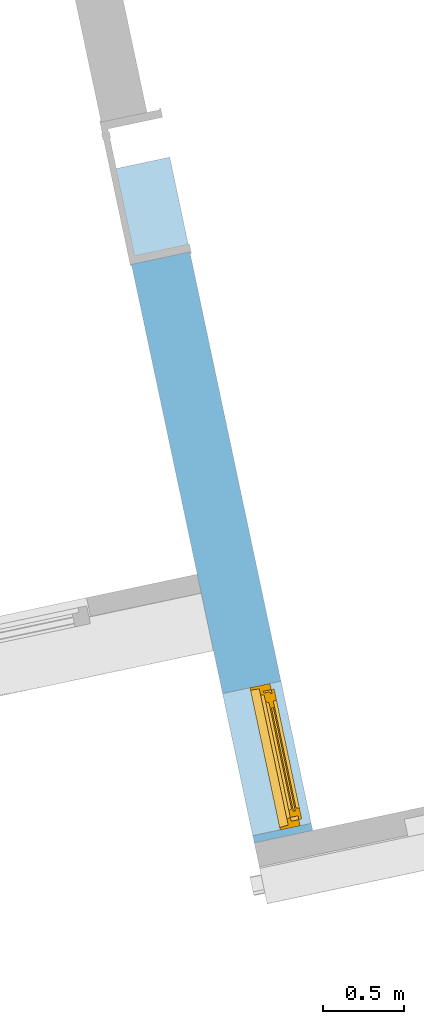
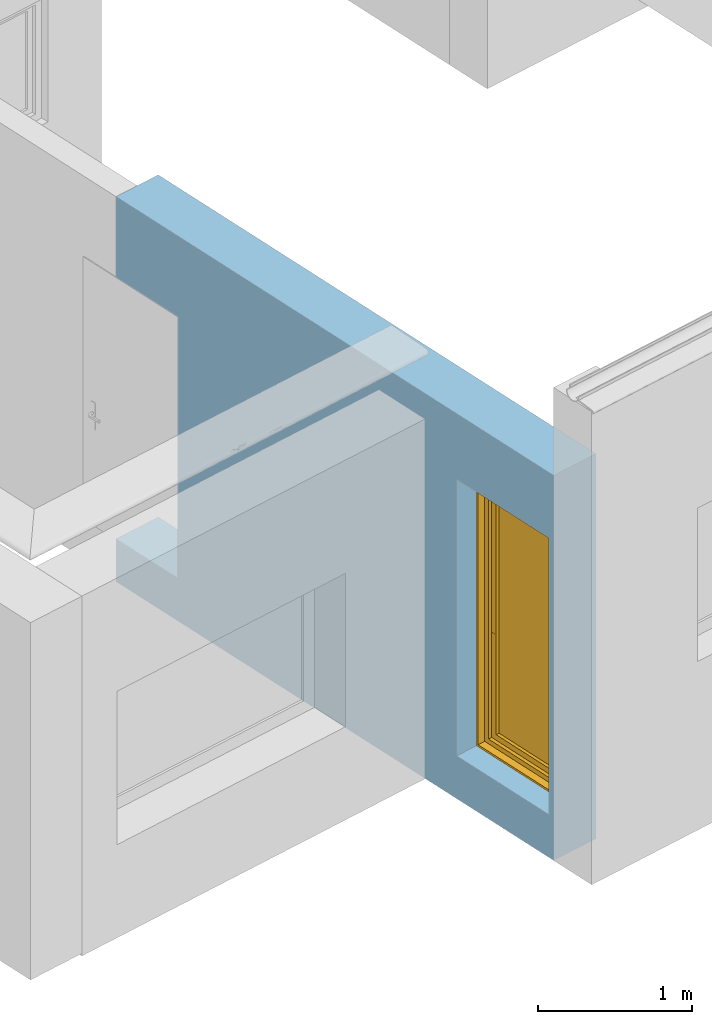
"""IFC2X3 building model written with IfcOpenShell, lengths in centimetres."""

from ifc_helpers import new_model, entity, si_unit, converted_unit, derived_unit, direction, frame, frame_2d, origin, place, context, subcontext, project, spatial, rectangle, extrude, faceted_brep, source, transform, mapped, material, material_list, layer, layer_set, layer_usage, type_object, type_shapes, element, fill, save


model = new_model("IFC2X3")

# Units and contexts
model_context = context("Model", 3, precision=0.001, world=origin(), true_north=direction((6.12303176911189e-17, 1.0)))
body_context = subcontext(model_context, "Body", "Model", "MODEL_VIEW")
ifc_project = project(units=[si_unit("LENGTHUNIT", "METRE", prefix="CENTI"), si_unit("AREAUNIT", "SQUARE_METRE"), si_unit("VOLUMEUNIT", "CUBIC_METRE"), converted_unit("PLANEANGLEUNIT", "DEGREE", entity("IfcRatioMeasure", 0.0174532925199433), si_unit("PLANEANGLEUNIT", "RADIAN"), dimensions=[0, 0, 0, 0, 0, 0, 0]), si_unit("MASSUNIT", "GRAM", prefix="KILO"), derived_unit("MASSDENSITYUNIT", [(si_unit("MASSUNIT", "GRAM", prefix="KILO"), 1), (si_unit("LENGTHUNIT", "METRE"), -3)]), derived_unit("IONCONCENTRATIONUNIT", [(si_unit("MASSUNIT", "GRAM", prefix="KILO"), 1), (si_unit("LENGTHUNIT", "METRE"), -3)]), derived_unit("MOMENTOFINERTIAUNIT", [(si_unit("LENGTHUNIT", "METRE"), 4)]), si_unit("TIMEUNIT", "SECOND"), si_unit("FREQUENCYUNIT", "HERTZ"), si_unit("THERMODYNAMICTEMPERATUREUNIT", "DEGREE_CELSIUS"), derived_unit("THERMALTRANSMITTANCEUNIT", [(si_unit("MASSUNIT", "GRAM", prefix="KILO"), 1), (si_unit("THERMODYNAMICTEMPERATUREUNIT", "KELVIN"), -1), (si_unit("TIMEUNIT", "SECOND"), -3)]), derived_unit("THERMALCONDUCTANCEUNIT", [(si_unit("MASSUNIT", "GRAM", prefix="KILO"), 1), (si_unit("THERMODYNAMICTEMPERATUREUNIT", "KELVIN"), -1), (si_unit("TIMEUNIT", "SECOND"), -3), (si_unit("LENGTHUNIT", "METRE"), 1)]), derived_unit("VOLUMETRICFLOWRATEUNIT", [(si_unit("LENGTHUNIT", "METRE"), 3), (si_unit("TIMEUNIT", "SECOND"), -1)]), derived_unit("MASSFLOWRATEUNIT", [(si_unit("MASSUNIT", "GRAM", prefix="KILO"), 1), (si_unit("TIMEUNIT", "SECOND"), -1)]), derived_unit("ROTATIONALFREQUENCYUNIT", [(si_unit("TIMEUNIT", "SECOND"), -1)]), si_unit("ELECTRICCURRENTUNIT", "AMPERE"), si_unit("ELECTRICVOLTAGEUNIT", "VOLT"), si_unit("POWERUNIT", "WATT"), si_unit("FORCEUNIT", "NEWTON", prefix="KILO"), si_unit("ILLUMINANCEUNIT", "LUX"), si_unit("LUMINOUSFLUXUNIT", "LUMEN"), si_unit("LUMINOUSINTENSITYUNIT", "CANDELA"), derived_unit("USERDEFINED", [(si_unit("MASSUNIT", "GRAM", prefix="KILO"), -1), (si_unit("LENGTHUNIT", "METRE"), -2), (si_unit("TIMEUNIT", "SECOND"), 3), (si_unit("LUMINOUSFLUXUNIT", "LUMEN"), 1)]), derived_unit("USERDEFINED", [(si_unit("MASSUNIT", "GRAM", prefix="KILO"), 1), (si_unit("TIMEUNIT", "SECOND"), -3), (si_unit("LENGTHUNIT", "METRE"), 3), (si_unit("ELECTRICCURRENTUNIT", "AMPERE"), -2)]), derived_unit("SOUNDPOWERUNIT", [(si_unit("MASSUNIT", "GRAM", prefix="KILO"), 1), (si_unit("TIMEUNIT", "SECOND"), -3), (si_unit("LENGTHUNIT", "METRE"), 2)]), derived_unit("SOUNDPRESSUREUNIT", [(si_unit("MASSUNIT", "GRAM", prefix="KILO"), 1), (si_unit("LENGTHUNIT", "METRE"), -1), (si_unit("TIMEUNIT", "SECOND"), -2)]), derived_unit("LINEARVELOCITYUNIT", [(si_unit("LENGTHUNIT", "METRE"), 1), (si_unit("TIMEUNIT", "SECOND"), -1)]), si_unit("PRESSUREUNIT", "PASCAL"), derived_unit("USERDEFINED", [(si_unit("MASSUNIT", "GRAM", prefix="KILO"), 1), (si_unit("LENGTHUNIT", "METRE"), -2), (si_unit("TIMEUNIT", "SECOND"), -2)]), derived_unit("LINEARFORCEUNIT", [(si_unit("MASSUNIT", "GRAM", prefix="KILO"), 1), (si_unit("TIMEUNIT", "SECOND"), -2)]), derived_unit("PLANARFORCEUNIT", [(si_unit("MASSUNIT", "GRAM", prefix="KILO"), 1), (si_unit("LENGTHUNIT", "METRE"), -1), (si_unit("TIMEUNIT", "SECOND"), -2)]), derived_unit("SPECIFICHEATCAPACITYUNIT", [(si_unit("THERMODYNAMICTEMPERATUREUNIT", "KELVIN"), -1), (si_unit("LENGTHUNIT", "METRE"), 2), (si_unit("TIMEUNIT", "SECOND"), -2)]), derived_unit("HEATINGVALUEUNIT", [(si_unit("LENGTHUNIT", "METRE"), 2), (si_unit("TIMEUNIT", "SECOND"), -2)]), derived_unit("VAPORPERMEABILITYUNIT", [(si_unit("LENGTHUNIT", "METRE"), -1), (si_unit("TIMEUNIT", "SECOND"), 1)]), derived_unit("DYNAMICVISCOSITYUNIT", [(si_unit("MASSUNIT", "GRAM", prefix="KILO"), 1), (si_unit("TIMEUNIT", "SECOND"), -1), (si_unit("LENGTHUNIT", "METRE"), -1)]), derived_unit("THERMALEXPANSIONCOEFFICIENTUNIT", [(si_unit("THERMODYNAMICTEMPERATUREUNIT", "KELVIN"), -1)]), derived_unit("MODULUSOFELASTICITYUNIT", [(si_unit("MASSUNIT", "GRAM", prefix="KILO"), 1), (si_unit("LENGTHUNIT", "METRE"), -1), (si_unit("TIMEUNIT", "SECOND"), -2)]), derived_unit("ISOTHERMALMOISTURECAPACITYUNIT", [(si_unit("LENGTHUNIT", "METRE"), 3), (si_unit("MASSUNIT", "GRAM", prefix="KILO"), -1)]), derived_unit("MOISTUREDIFFUSIVITYUNIT", [(si_unit("TIMEUNIT", "SECOND"), -1), (si_unit("LENGTHUNIT", "METRE"), 2)])], contexts=[model_context])

# Site, building, storey
site_placement = place(None, frame((14083.8920177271, -6853.25409548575, 6900.0), z_axis=(0.0, 0.0, 1.0), x_axis=(0.978188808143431, 0.207717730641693, 0.0)))
site = spatial("IfcSite", under=ifc_project, at=site_placement, Name="Surface", CompositionType="ELEMENT")
building_placement = place(site_placement, origin())
building = spatial("IfcBuilding", under=site, at=building_placement, CompositionType="ELEMENT")
storey_1_placement = place(building_placement, frame((0.0, 0.0, -17.0)))
storey_1 = spatial("IfcBuildingStorey", under=building, at=storey_1_placement, Name="Rez de chaussée (SD)", CompositionType="ELEMENT", Elevation=-16.9999999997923)

# Wall, openings
ifc_material_1 = material(Name="__ ENDUIT_Blanc")
ifc_layer_1 = layer(ifc_material_1, 2.0)
ifc_material_2 = material(Name="__ BETON_parpaings")
ifc_layer_2 = layer(ifc_material_2, 20.0)
ifc_material_3 = material(Name="__ ISOLANT (pat 1)")
ifc_layer_3 = layer(ifc_material_3, 13.0)
ifc_layer_4 = layer(ifc_material_1, 2.0)
ifc_layer_set = layer_set([ifc_layer_1, ifc_layer_2, ifc_layer_3, ifc_layer_4], Name="Mur de base:*BRIQUE 37 (20 +INT 13+2 + EXT 2) (Iso+BA13)(enduit)")
ifc_layer_usage = layer_usage(ifc_layer_set, "AXIS2", "NEGATIVE", 18.5)
wall_type = type_object("IfcWallType", Name="Mur de base:*BRIQUE 37 (20 +INT 13+2 + EXT 2) (Iso+BA13)(enduit)", PredefinedType="STANDARD", material=ifc_layer_set)
wall_placement = place(storey_1_placement, frame((-7718.4551432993, 14712.6724778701, 0.0), z_axis=(0.0, 0.0, 1.0), x_axis=(0.0, 1.0, 0.0)))
wall = element("IfcWallStandardCase", 1, at=wall_placement, inside=storey_1, type_object=wall_type, material=ifc_layer_usage, Name="Mur de base:*BRIQUE 37 (20 +INT 13+2 + EXT 2) (Iso+BA13)(enduit)", ObjectType="Mur de base:*BRIQUE 37 (20 +INT 13+2 + EXT 2) (Iso+BA13)(enduit)", context=body_context, shape_type="SweptSolid", body=[
    extrude(rectangle(XDim=425.999999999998, YDim=37.0000000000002, at=frame_2d((212.999999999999, -3.5527136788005e-14), x_axis=(-1.0, 0.0))), origin(), (0.0, 0.0, 1.0), 305.999999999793),
])
opening_1_placement = place(wall_placement, origin())
element("IfcOpeningElement", 2, at=opening_1_placement, cuts=wall, Name="Mur de base:*BRIQUE 37 (20 +INT 13+2 + EXT 2) (Iso+BA13)(enduit)", ObjectType="Opening", context=body_context, shape_type="SweptSolid", body=[
    extrude(rectangle(XDim=207.5, YDim=7.00000000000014, at=frame_2d((-8.66418048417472e-13, 0.0), x_axis=(0.0, 1.0))), frame((362.49486685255, -123.499999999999, 137.750000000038), z_axis=(0.0, 1.0, 0.0), x_axis=(1.0, 0.0, 0.0)), (0.0, 0.0, 1.0), 90.0000000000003),
])
opening_2_placement = place(wall_placement, frame((4.45997477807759, 21.0, 28.3850445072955), z_axis=(0.0, 0.0, 1.0), x_axis=(0.0, -1.0, 0.0)))
opening_2 = element("IfcOpeningElement", 3, at=opening_2_placement, cuts=wall, Name="Mur de base:*BRIQUE 37 (20 +INT 13+2 + EXT 2) (Iso+BA13)(enduit)", ObjectType="Opening", context=body_context, shape_type="Brep", body=[
    faceted_brep([(39.5000000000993, 90.0, 225.614955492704), (39.5000000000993, 0.0, 225.614955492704), (39.5000000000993, 0.0, 5.61495549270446), (39.5000000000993, 90.0, 5.61495549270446), (2.50000000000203, 90.0, 225.614955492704), (2.50000000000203, 90.0, 5.61495549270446), (2.50000000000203, 0.0999999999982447, 5.61495549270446), (2.50000000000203, 0.0, 5.61495549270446), (2.50000000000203, 0.0, 225.614955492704), (34.2000000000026, 90.0, 225.614955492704), (34.2000000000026, 90.0, 225.714955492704), (34.3000000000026, 90.0, 225.714955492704), (34.3000000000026, 90.0, 225.614955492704), (33.0, 0.0, 5.61495549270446), (33.0, 0.0999999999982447, 5.61495549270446), (34.3000000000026, 0.0, 225.614955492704), (34.3000000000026, 0.0, 225.714955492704), (34.2000000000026, 0.0, 225.714955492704), (34.2000000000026, 0.0, 225.614955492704), (14.3000000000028, 0.0, 225.614955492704), (14.3000000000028, 0.0, 225.714955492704), (14.2000000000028, 0.0, 225.714955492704), (14.2000000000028, 0.0, 225.614955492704), (0.0, 0.0, 5.61495549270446), (0.0, 0.0, 0.0), (30.5025116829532, 0.0, 2.11559678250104), (33.0, 0.0, 2.11559678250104), (30.5025116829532, 0.0999999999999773, 2.11559678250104), (0.0, 0.0999999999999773, 0.0), (0.0, 0.0999999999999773, 5.61495549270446), (33.0, 0.0999999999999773, 2.11559678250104), (14.3000000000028, 0.0999999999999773, 225.714955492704), (14.3000000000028, 0.0999999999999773, 225.614955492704), (14.2000000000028, 0.0999999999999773, 225.614955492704), (14.2000000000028, 0.0999999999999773, 225.714955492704)], [[[0, 1, 2, 3]], [[4, 5, 6, 7, 8]], [[0, 3, 5, 4, 9, 10, 11, 12]], [[3, 2, 13, 14, 6, 5]], [[2, 1, 15, 16, 17, 18, 19, 20, 21, 22, 8, 7, 23, 24, 25, 26, 13]], [[1, 0, 12, 15]], [[27, 28, 29, 6, 14, 30]], [[27, 30, 26, 25]], [[30, 14, 13, 26]], [[29, 23, 7, 6]], [[29, 28, 24, 23]], [[28, 27, 25, 24]], [[31, 32, 33, 34]], [[31, 34, 21, 20]], [[34, 33, 22, 21]], [[32, 31, 20, 19]], [[12, 11, 16, 15]], [[11, 10, 17, 16]], [[10, 9, 18, 17]], [[4, 8, 22, 33, 32, 19, 18, 9]]]),
])
opening_3_placement = place(wall_placement, frame((365.994866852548, -18.5000000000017, 34.0)))
element("IfcOpeningElement", 4, at=opening_3_placement, cuts=wall, Name="*Porte_alveolaire:Pp 83 x 204:1", ObjectType="Opening", context=body_context, shape_type="SweptSolid", body=[
    extrude(rectangle(XDim=207.5, YDim=89.9999999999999, at=frame_2d((103.75, 45.0), x_axis=(1.0, 0.0))), frame((0.0, 0.0, 0.0), z_axis=(0.0, 1.0, 0.0), x_axis=(0.0, 0.0, 1.0)), (0.0, 0.0, 1.0), 37.0),
])

# Storey
storey_2_placement = place(building_placement, frame((0.0, 0.0, 17.0)))
storey_2 = spatial("IfcBuildingStorey", under=building, at=storey_2_placement, Name="Rez de chaussée", CompositionType="ELEMENT", Elevation=17.0000000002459)

# Window
ifc_material_4 = material(Name="<Unnamed>")
ifc_material_5 = material(Name="Fenêtre - Vitrage")
ifc_material_6 = material(Name="Fenêtre - Cadre")
ifc_material_list = material_list([ifc_material_4, ifc_material_5, ifc_material_6])
window_style = type_object("IfcWindowStyle", Name="*PVC 1 VANTAIL:PF 90*220", ConstructionType="NOTDEFINED", OperationType="NOTDEFINED", ParameterTakesPrecedence=False, Sizeable=False, material=ifc_material_list)
shared_shape = source(origin(), body_context, "Body", "Brep", [
    faceted_brep([(160.0, 8.0, 93.6149554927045), (160.0, 10.0, 93.6149554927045), (150.0, 10.0, 93.6149554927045), (150.0, 8.0, 93.6149554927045), (160.0, 8.0, 91.6149554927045), (150.0, 8.0, 91.6149554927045), (150.0, 10.0, 91.6149554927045), (160.0, 10.0, 91.6149554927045)], [[[0, 1, 2, 3]], [[4, 5, 6, 7]], [[3, 5, 4, 0]], [[2, 6, 5, 3]], [[1, 7, 6, 2]], [[0, 4, 7, 1]]]),
    faceted_brep([(160.0, 10.0, 95.6149554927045), (160.0, 12.0, 95.6149554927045), (155.0, 12.0, 95.6149554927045), (155.0, 10.0, 95.6149554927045), (160.0, 10.0, 90.6149554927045), (155.0, 10.0, 90.6149554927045), (155.0, 12.0, 90.6149554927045), (160.0, 12.0, 90.6149554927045)], [[[0, 1, 2, 3]], [[4, 5, 6, 7]], [[3, 5, 4, 0]], [[2, 6, 5, 3]], [[1, 7, 6, 2]], [[0, 4, 7, 1]]]),
    faceted_brep([(155.416484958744, 7.25296298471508, 216.031440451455), (155.416484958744, 8.03717831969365, 216.031440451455), (84.5835150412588, 8.03717831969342, 216.031440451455), (84.5835150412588, 7.25296298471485, 216.031440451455), (155.416484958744, 7.25296298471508, 15.198470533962), (84.5835150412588, 7.25296298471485, 15.198470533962), (84.5835150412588, 8.03717831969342, 15.198470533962), (155.416484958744, 8.03717831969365, 15.198470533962)], [[[0, 1, 2, 3]], [[4, 5, 6, 7]], [[3, 5, 4, 0]], [[2, 6, 5, 3]], [[1, 7, 6, 2]], [[0, 4, 7, 1]]]),
    faceted_brep([(84.5835150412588, 9.23973889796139, 216.031440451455), (84.5835150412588, 9.23973889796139, 15.198470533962), (155.416484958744, 9.23973889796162, 15.198470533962), (155.416484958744, 9.23973889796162, 216.031440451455), (84.5835150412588, 10.0397388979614, 216.031440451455), (84.5835150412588, 10.0397388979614, 15.198470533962), (155.416484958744, 10.0397388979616, 216.031440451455), (155.416484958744, 10.0397388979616, 15.198470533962)], [[[0, 1, 2, 3]], [[4, 5, 1, 0]], [[6, 7, 5, 4]], [[3, 2, 7, 6]], [[2, 1, 5, 7]], [[3, 6, 4, 0]]]),
    faceted_brep([(84.5835150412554, 7.25296298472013, 216.031440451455), (84.5835150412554, 7.25296298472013, 15.1984705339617), (84.5835150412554, 10.0397388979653, 15.1984705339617), (84.5835150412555, 10.0397388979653, 216.031440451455), (85.5691641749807, 5.15897052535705, 215.04579131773), (85.5691641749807, 5.15897052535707, 16.184119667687), (86.3313151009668, 7.25296298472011, 16.9462705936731), (86.3313151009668, 7.25296298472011, 214.283640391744), (78.8763363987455, 7.00296298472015, 221.738619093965), (78.8763363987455, 7.00296298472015, 9.49129189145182), (78.8763363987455, 5.15897052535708, 9.49129189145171), (78.8763363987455, 5.15897052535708, 221.738619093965), (81.2863363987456, 11.9191241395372, 219.328619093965), (81.2863363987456, 11.9191241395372, 11.9012918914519), (81.2863363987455, 7.00296298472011, 11.9012918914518), (81.2863363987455, 7.00296298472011, 219.328619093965), (86.3540380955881, 10.0397388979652, 214.260917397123), (86.3540380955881, 10.0397388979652, 16.9689935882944), (85.6699978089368, 11.9191241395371, 16.284953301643), (85.6699978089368, 11.9191241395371, 214.944957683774), (155.416484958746, 7.25296298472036, 15.1984705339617), (155.416484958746, 10.0397388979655, 15.1984705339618), (154.430835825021, 5.15897052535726, 16.184119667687), (153.668684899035, 7.25296298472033, 16.9462705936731), (161.123663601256, 7.00296298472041, 9.49129189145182), (161.123663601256, 5.15897052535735, 9.49129189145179), (158.713663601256, 11.9191241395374, 11.9012918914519), (158.713663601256, 7.00296298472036, 11.9012918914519), (153.645961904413, 10.0397388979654, 16.9689935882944), (154.330002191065, 11.9191241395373, 16.2849533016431), (155.416484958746, 7.25296298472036, 216.031440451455), (155.416484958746, 10.0397388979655, 216.031440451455), (154.430835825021, 5.15897052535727, 215.04579131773), (153.668684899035, 7.25296298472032, 214.283640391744), (161.123663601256, 7.00296298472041, 221.738619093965), (161.123663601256, 5.15897052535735, 221.738619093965), (158.713663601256, 11.9191241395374, 219.328619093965), (158.713663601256, 7.00296298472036, 219.328619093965), (153.645961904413, 10.0397388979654, 214.260917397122), (154.330002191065, 11.9191241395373, 214.944957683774)], [[[0, 1, 2, 3]], [[4, 5, 6, 7]], [[8, 9, 10, 11]], [[12, 13, 14, 15]], [[16, 17, 18, 19]], [[1, 20, 21, 2]], [[5, 22, 23, 6]], [[9, 24, 25, 10]], [[13, 26, 27, 14]], [[17, 28, 29, 18]], [[20, 30, 31, 21]], [[22, 32, 33, 23]], [[24, 34, 35, 25]], [[26, 36, 37, 27]], [[28, 38, 39, 29]], [[30, 0, 3, 31]], [[7, 6, 23, 33], [1, 0, 30, 20]], [[32, 4, 7, 33]], [[11, 10, 25, 35], [5, 4, 32, 22]], [[34, 8, 11, 35]], [[15, 14, 27, 37], [9, 8, 34, 24]], [[36, 12, 15, 37]], [[19, 18, 29, 39], [13, 12, 36, 26]], [[38, 16, 19, 39]], [[3, 2, 21, 31], [17, 16, 38, 28]]], outer=[[True], [True], [True], [True], [True], [True], [True], [True], [True], [True], [True], [True], [True], [True], [True], [True], [False, True], [True], [True, False], [True], [False, True], [True], [False, True], [True], [True, False]]),
    faceted_brep([(75.0, 19.6482873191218, 225.614955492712), (75.0, 7.0, 225.614955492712), (165.0, 7.0, 225.614955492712), (165.0, 19.6482873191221, 225.614955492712), (163.409026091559, 19.6482873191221, 225.614955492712), (163.121178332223, 14.155824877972, 225.614955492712), (76.8788216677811, 14.1558248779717, 225.614955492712), (76.5909739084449, 19.648287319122, 225.614955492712), (165.0, 7.0, 5.61495549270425), (165.0, 19.6482873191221, 5.61495549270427), (75.0, 19.6482873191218, 5.61495549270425), (76.590973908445, 19.648287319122, 7.20592940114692), (163.409026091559, 19.6482873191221, 7.20592940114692), (163.121178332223, 14.155824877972, 7.4937771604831), (76.8788216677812, 14.1558248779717, 7.49377716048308), (80.6883423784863, 14.1558248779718, 11.3032978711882), (159.311657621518, 14.155824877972, 11.3032978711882), (159.311657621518, 14.155824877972, 219.926613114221), (80.6883423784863, 14.1558248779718, 219.926613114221), (158.713663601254, 12.4191241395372, 11.9012918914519), (158.713663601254, 12.4191241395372, 219.328619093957), (158.713663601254, 11.9191241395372, 11.9012918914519), (158.713663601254, 11.9191241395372, 219.328619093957), (161.123076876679, 11.9191241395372, 9.49187861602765), (161.123076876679, 11.9191241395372, 221.738032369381), (78.8769231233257, 11.9191241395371, 221.738032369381), (78.8769231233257, 11.9191241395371, 9.49187861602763), (81.28633639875, 11.919124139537, 11.9012918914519), (81.2863363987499, 11.919124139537, 219.328619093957), (161.123076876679, 7.0, 9.49187861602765), (161.123076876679, 7.0, 221.738032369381), (75.0, 7.0, 5.61495549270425), (78.8769231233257, 7.0, 9.49187861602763), (78.8769231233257, 7.0, 221.738032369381), (81.2863363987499, 12.4191241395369, 219.328619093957), (81.28633639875, 12.4191241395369, 11.9012918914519)], [[[0, 1, 2, 3, 4, 5, 6, 7]], [[8, 9, 3, 2]], [[3, 9, 10, 0, 7, 11, 12, 4]], [[4, 12, 13, 5]], [[5, 13, 14, 6], [15, 16, 17, 18]], [[19, 20, 17, 16]], [[21, 22, 20, 19]], [[23, 24, 25, 26], [21, 27, 28, 22]], [[29, 30, 24, 23]], [[1, 31, 8, 2], [29, 32, 33, 30]], [[33, 25, 24, 30]], [[28, 34, 20, 22]], [[17, 20, 34, 18]], [[26, 32, 29, 23]], [[19, 35, 27, 21]], [[15, 35, 19, 16]], [[11, 14, 13, 12]], [[8, 31, 10, 9]], [[25, 33, 32, 26]], [[35, 34, 28, 27]], [[15, 18, 34, 35]], [[14, 11, 7, 6]], [[10, 31, 1, 0]]]),
])
type_shapes(window_style, [shared_shape])
window_placement = place(opening_2_placement, frame((39.5000000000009, -75.0, 0.0), z_axis=(0.0, 0.0, 1.0), x_axis=(0.0, 1.0, 0.0)))
window = element("IfcWindow", 5, at=window_placement, inside=storey_2, type_object=window_style, material=ifc_material_list, Name="*PVC 1 VANTAIL:PF 90*220", ObjectType="*PVC 1 VANTAIL:PF 90*220", OverallHeight=225.541560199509, OverallWidth=95.000000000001, context=body_context, shape_type="MappedRepresentation", body=[
    mapped(shared_shape, transform((0.0, 0.0, 0.0), scale=1.0)),
])

fill(opening_2, window)

save(model, "model.ifc")
